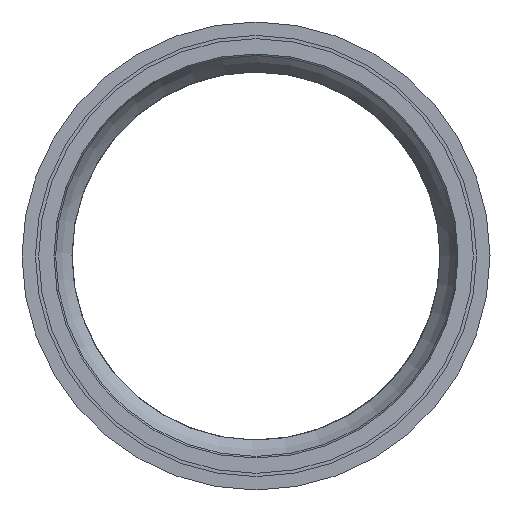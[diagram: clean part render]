
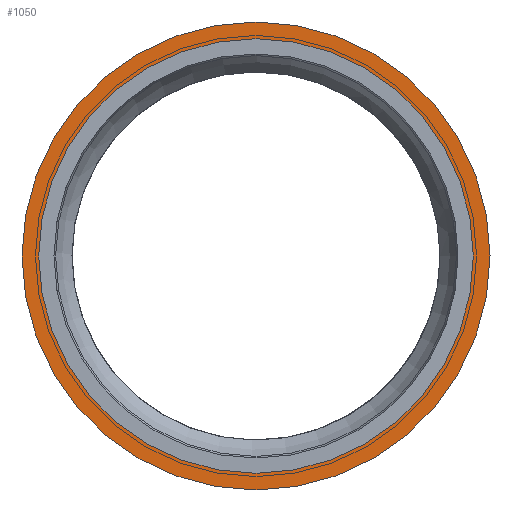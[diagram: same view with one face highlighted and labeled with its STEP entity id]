
A CAD part, left-side view. The second image highlights one B-rep face of the part: STEP entity #1050.
In plain terms, the highlighted planar face has unit normal (-1, 0, 0).
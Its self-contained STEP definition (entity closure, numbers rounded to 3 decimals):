
#133=PLANE('',#1170);
#195=FACE_BOUND('',#379,.T.);
#196=FACE_BOUND('',#380,.T.);
#379=EDGE_LOOP('',(#885));
#380=EDGE_LOOP('',(#886));
#431=CIRCLE('',#1169,64.35);
#432=CIRCLE('',#1171,59.75);
#535=VERTEX_POINT('',#4048);
#536=VERTEX_POINT('',#4051);
#653=EDGE_CURVE('',#535,#535,#431,.T.);
#654=EDGE_CURVE('',#536,#536,#432,.T.);
#885=ORIENTED_EDGE('',*,*,#654,.F.);
#886=ORIENTED_EDGE('',*,*,#653,.T.);
#1050=ADVANCED_FACE('',(#195,#196),#133,.T.);
#1169=AXIS2_PLACEMENT_3D('',#4049,#1395,#1396);
#1170=AXIS2_PLACEMENT_3D('',#4050,#1397,#1398);
#1171=AXIS2_PLACEMENT_3D('',#4052,#1399,#1400);
#1395=DIRECTION('center_axis',(-1.,0.,0.));
#1396=DIRECTION('ref_axis',(0.,0.,
-1.));
#1397=DIRECTION('center_axis',(-1.,0.,0.));
#1398=DIRECTION('ref_axis',(0.,0.,-1.));
#1399=DIRECTION('center_axis',(-1.,0.,0.));
#1400=DIRECTION('ref_axis',(0.,0.,
-1.));
#4048=CARTESIAN_POINT('',(-1561.91,-64.35,0.));
#4049=CARTESIAN_POINT('Origin',(-1561.91,0.,0.));
#4050=CARTESIAN_POINT('Origin',(-1561.91,-59.75,0.));
#4051=CARTESIAN_POINT('',(-1561.91,-59.75,0.));
#4052=CARTESIAN_POINT('Origin',(-1561.91,0.,0.));
